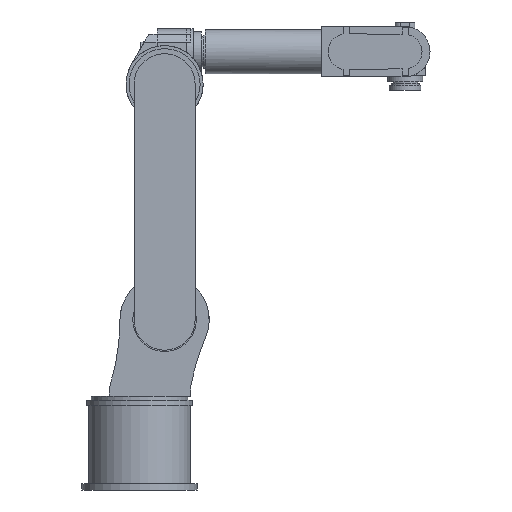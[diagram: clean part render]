
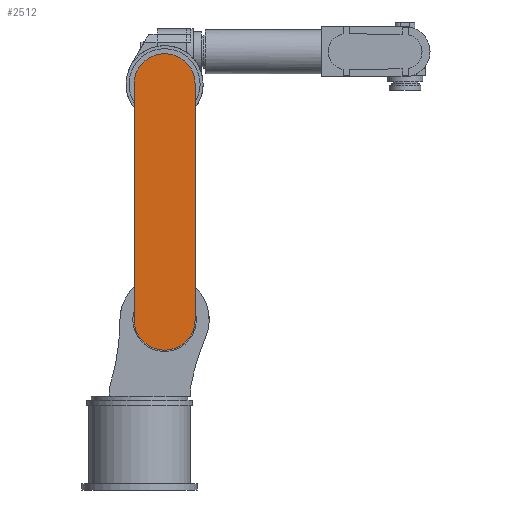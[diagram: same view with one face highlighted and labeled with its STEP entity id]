
A CAD part, front view. The second image highlights one B-rep face of the part: STEP entity #2512.
In plain terms, the highlighted planar face has unit normal (0, -1, 0).
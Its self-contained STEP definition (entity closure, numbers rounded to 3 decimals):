
#2446 = VERTEX_POINT('',#2447);
#2447 = CARTESIAN_POINT('',(-11.,-123.,165.));
#2453 = EDGE_CURVE('',#2446,#2454,#2456,.T.);
#2454 = VERTEX_POINT('',#2455);
#2455 = CARTESIAN_POINT('',(-11.,-123.,635.));
#2456 = LINE('',#2457,#2458);
#2457 = CARTESIAN_POINT('',(-11.,-123.,165.));
#2458 = VECTOR('',#2459,1.);
#2459 = DIRECTION('',(0.,0.,1.));
#2486 = VERTEX_POINT('',#2487);
#2487 = CARTESIAN_POINT('',(111.,-123.,165.));
#2493 = EDGE_CURVE('',#2486,#2446,#2494,.T.);
#2494 = CIRCLE('',#2495,61.);
#2495 = AXIS2_PLACEMENT_3D('',#2496,#2497,#2498);
#2496 = CARTESIAN_POINT('',(50.,-123.,165.));
#2497 = DIRECTION('',(0.,1.,0.));
#2498 = DIRECTION('',(1.,0.,0.));
#2512 = ADVANCED_FACE('',(#2513),#2532,.F.);
#2513 = FACE_BOUND('',#2514,.F.);
#2514 = EDGE_LOOP('',(#2515,#2516,#2525,#2531));
#2515 = ORIENTED_EDGE('',*,*,#2453,.T.);
#2516 = ORIENTED_EDGE('',*,*,#2517,.T.);
#2517 = EDGE_CURVE('',#2454,#2518,#2520,.T.);
#2518 = VERTEX_POINT('',#2519);
#2519 = CARTESIAN_POINT('',(111.,-123.,635.));
#2520 = CIRCLE('',#2521,61.);
#2521 = AXIS2_PLACEMENT_3D('',#2522,#2523,#2524);
#2522 = CARTESIAN_POINT('',(50.,-123.,635.));
#2523 = DIRECTION('',(0.,1.,-0.));
#2524 = DIRECTION('',(-1.,0.,0.));
#2525 = ORIENTED_EDGE('',*,*,#2526,.T.);
#2526 = EDGE_CURVE('',#2518,#2486,#2527,.T.);
#2527 = LINE('',#2528,#2529);
#2528 = CARTESIAN_POINT('',(111.,-123.,635.));
#2529 = VECTOR('',#2530,1.);
#2530 = DIRECTION('',(0.,-0.,-1.));
#2531 = ORIENTED_EDGE('',*,*,#2493,.T.);
#2532 = PLANE('',#2533);
#2533 = AXIS2_PLACEMENT_3D('',#2534,#2535,#2536);
#2534 = CARTESIAN_POINT('',(50.,-123.,400.));
#2535 = DIRECTION('',(0.,1.,0.));
#2536 = DIRECTION('',(0.,-0.,1.));
